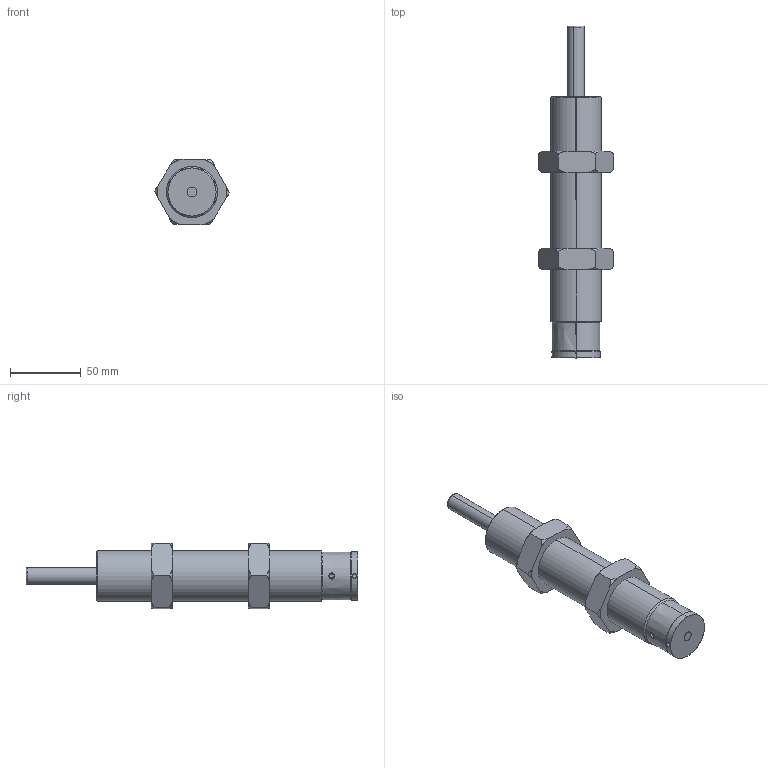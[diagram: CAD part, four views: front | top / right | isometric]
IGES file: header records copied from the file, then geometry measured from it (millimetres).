
Start section: SolidWorks IGES file using analytic representation for surfaces
Bounding box: 53.1 x 235 x 46.67 mm (x, y, z)
Surface area: 36259.5 mm2 (no closed solid volume)
Topology: 0 solids, 0 shells, 104 faces, 1824 edges, 1824 vertices
Faces by surface type: revolution 64, bspline 40
